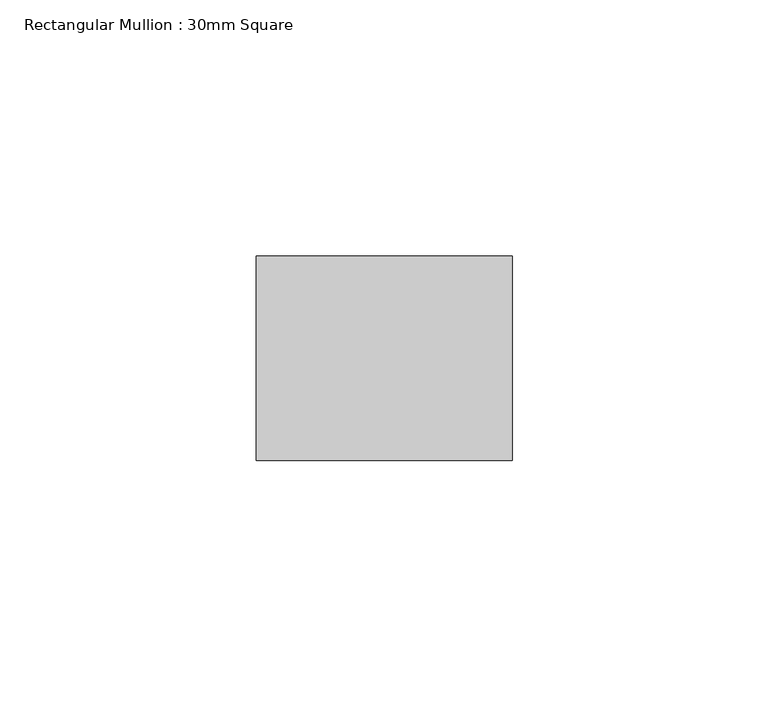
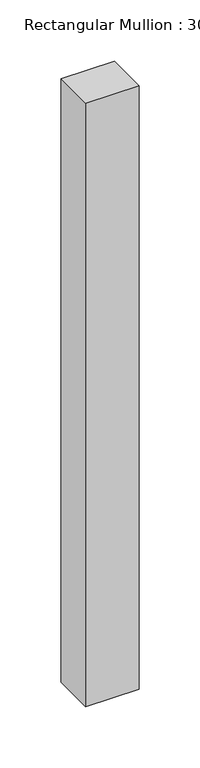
"""IFC4 building model written with IfcOpenShell, lengths in millimetres: member geometry, Rectangular Mullion : 30mm Square."""

from ifc_helpers import new_model, si_unit, frame, origin, place, context, project, spatial, polyline, outline, extrude, source, transform, mapped, element, save


def rectangular_mullion_30mm_square_64775a34(model_context):
    return source(origin(), model_context, "Body", "SweptSolid", [
        extrude(outline(polyline([(0.0, 20.0), (0.0, -20.0), (-50.0, -20.0), (-50.0, 20.0), (0.0, 20.0)])), frame((0.0, 0.0, -600.0), z_axis=(0.0, 0.0, 1.0), x_axis=(1.0, 0.0, 0.0)), (0.0, 0.0, 1.0), 600.0),
    ])


if __name__ == "__main__":
    model = new_model("IFC4")
    model_context = context("Model", 3, world=origin())
    ifc_project = project(units=[si_unit("LENGTHUNIT", "METRE", prefix="MILLI")], contexts=[model_context])
    site = spatial("IfcSite", under=ifc_project)
    building = spatial("IfcBuilding", under=site)
    placement = place(None, origin())
    rectangular_mullion_30mm_square_shape = rectangular_mullion_30mm_square_64775a34(model_context)
    element("IfcMember", 1, ObjectType="Rectangular Mullion : 30mm Square", at=placement, inside=building, context=model_context, shape_type="MappedRepresentation", body=[
        mapped(rectangular_mullion_30mm_square_shape, transform((0.0, 0.0, 0.0), x_axis=(1.0, 0.0, 0.0), y_axis=(0.0, 1.0, 0.0), z_axis=(0.0, 0.0, 1.0))),
    ])
    save(model, "model.ifc")
